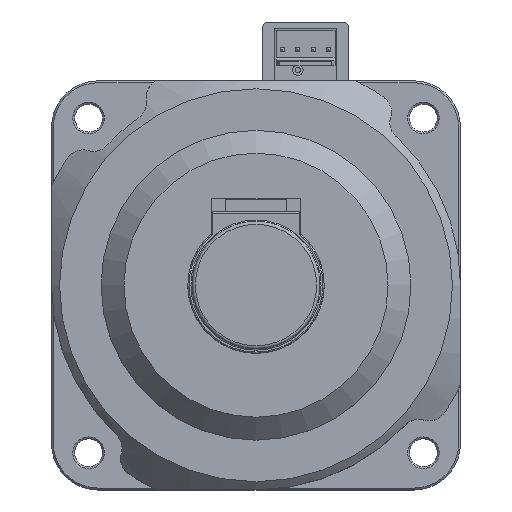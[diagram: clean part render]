
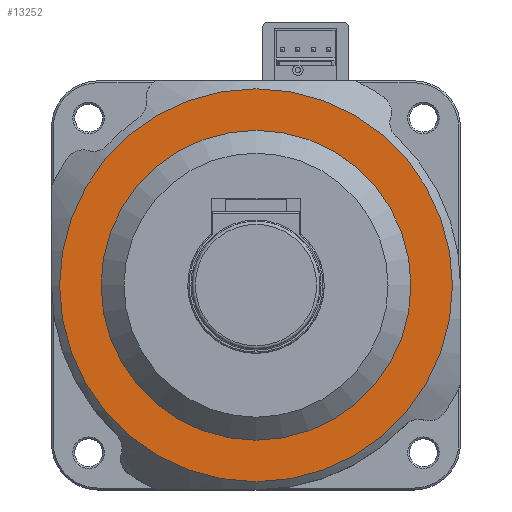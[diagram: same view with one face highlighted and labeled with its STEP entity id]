
A CAD part, top view. The second image highlights one B-rep face of the part: STEP entity #13252.
In plain terms, the highlighted planar face has unit normal (0, 0, 1).
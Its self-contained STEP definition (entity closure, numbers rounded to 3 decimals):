
#41 = EDGE_CURVE ( 'NONE', #12909, #12909, #16912, .T. ) ;
#193 = AXIS2_PLACEMENT_3D ( 'NONE', #956, #12134, #12314 ) ;
#956 = CARTESIAN_POINT ( 'NONE',  ( 0., 0., 17.1 ) ) ;
#2107 = PLANE ( 'NONE',  #16953 ) ;
#3205 = DIRECTION ( 'NONE',  ( 1., 0., 0. ) ) ;
#4507 = FACE_BOUND ( 'NONE', #5811, .T. ) ;
#5811 = EDGE_LOOP ( 'NONE', ( #10193 ) ) ;
#6579 = DIRECTION ( 'NONE',  ( 0., 0., 1. ) ) ;
#9410 = EDGE_LOOP ( 'NONE', ( #14961 ) ) ;
#9771 = AXIS2_PLACEMENT_3D ( 'NONE', #11511, #17143, #3205 ) ;
#10193 = ORIENTED_EDGE ( 'NONE', *, *, #17079, .F. ) ;
#10849 = VERTEX_POINT ( 'NONE', #18028 ) ;
#11511 = CARTESIAN_POINT ( 'NONE',  ( 0., 0., 17.1 ) ) ;
#12134 = DIRECTION ( 'NONE',  ( 0., 0., 1. ) ) ;
#12182 = DIRECTION ( 'NONE',  ( 1., 0., 0. ) ) ;
#12314 = DIRECTION ( 'NONE',  ( 1., 0., 0. ) ) ;
#12909 = VERTEX_POINT ( 'NONE', #13198 ) ;
#12983 = CIRCLE ( 'NONE', #9771, 25. ) ;
#13198 = CARTESIAN_POINT ( 'NONE',  ( 31.7, 0., 17.1 ) ) ;
#13252 = ADVANCED_FACE ( 'NONE', ( #17084, #4507 ), #2107, .T. ) ;
#13305 = CARTESIAN_POINT ( 'NONE',  ( 0., 0., 17.1 ) ) ;
#14961 = ORIENTED_EDGE ( 'NONE', *, *, #41, .T. ) ;
#16912 = CIRCLE ( 'NONE', #193, 31.7 ) ;
#16953 = AXIS2_PLACEMENT_3D ( 'NONE', #13305, #6579, #12182 ) ;
#17079 = EDGE_CURVE ( 'NONE', #10849, #10849, #12983, .T. ) ;
#17084 = FACE_OUTER_BOUND ( 'NONE', #9410, .T. ) ;
#17143 = DIRECTION ( 'NONE',  ( 0., 0., 1. ) ) ;
#18028 = CARTESIAN_POINT ( 'NONE',  ( 25., 0., 17.1 ) ) ;
